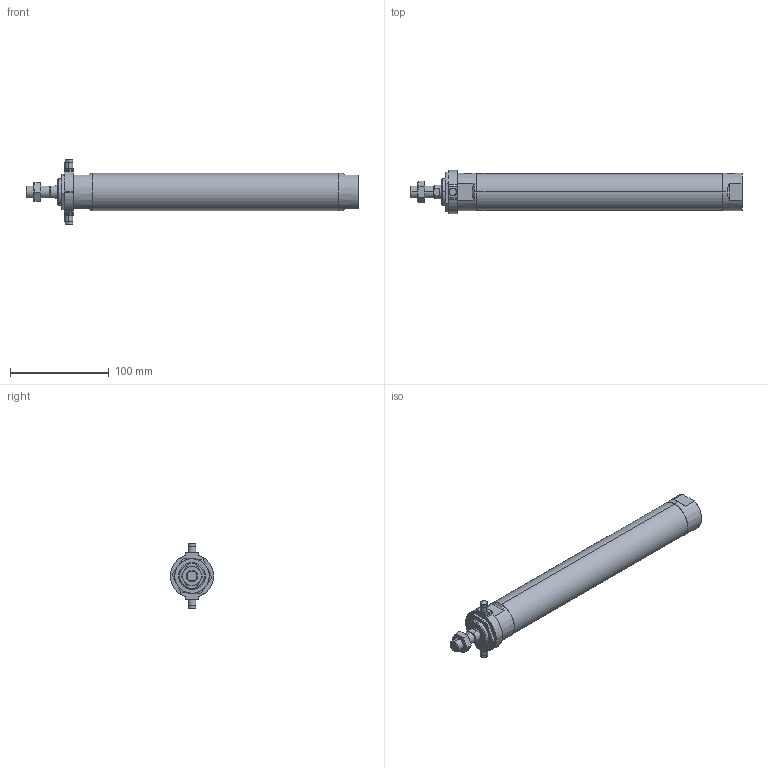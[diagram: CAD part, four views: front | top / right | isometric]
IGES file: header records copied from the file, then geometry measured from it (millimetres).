
Start section: SolidWorks IGES file using analytic representation for surfaces
Global section: file name: C:\Users\Toshiba\Desktop\JGND2-32-200-T.IGS; native system: SolidWorks 2014; preprocessor: SolidWorks 2014; author: Toshiba; date: 160804.105744; units: millimetre
Bounding box: 337 x 44 x 66 mm (x, y, z)
Surface area: 47509.4 mm2 (no closed solid volume)
Topology: 0 solids, 0 shells, 128 faces, 2076 edges, 2072 vertices
Faces by surface type: bspline 66, revolution 62
